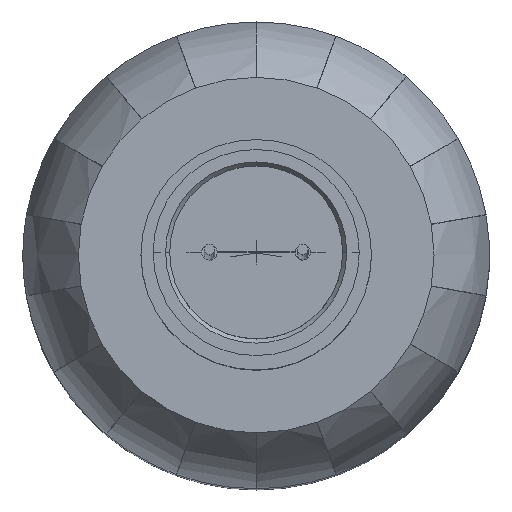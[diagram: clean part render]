
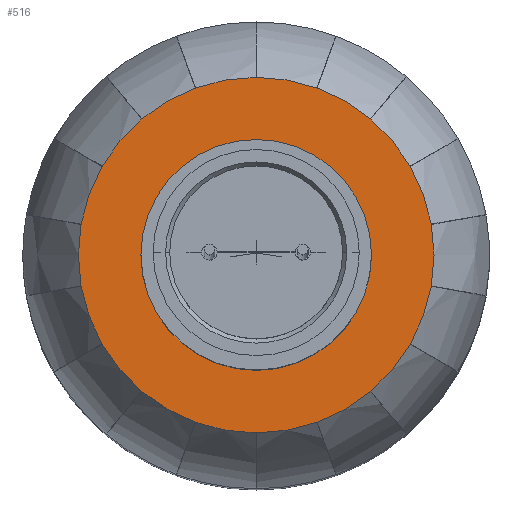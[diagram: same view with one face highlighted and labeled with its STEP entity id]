
A CAD part, top view. The second image highlights one B-rep face of the part: STEP entity #516.
In plain terms, the highlighted planar face has unit normal (0, 0, 1).
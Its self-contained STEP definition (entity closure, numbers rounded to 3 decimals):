
#516=ADVANCED_FACE('',(#763),#4167,.T.);
#763=FACE_OUTER_BOUND('',#1013,.T.);
#1013=EDGE_LOOP('',(#1387,#1388));
#1387=ORIENTED_EDGE('',*,*,#3300,.F.);
#1388=ORIENTED_EDGE('',*,*,#3184,.F.);
#3184=EDGE_CURVE('',#3745,#4148,#3533,.T.);
#3300=EDGE_CURVE('',#4148,#3745,#3575,.T.);
#3533=TRIMMED_CURVE($,#3646,(#9429),(#9430),.T.,.CARTESIAN.);
#3575=TRIMMED_CURVE($,#3688,(#9743),(#9744),.T.,.CARTESIAN.);
#3646=CIRCLE('',#4748,34.29);
#3688=CIRCLE('',#4790,34.29);
#3745=VERTEX_POINT('',#6679);
#4148=VERTEX_POINT('',#7082);
#4167=PLANE('',#4531);
#4531=AXIS2_PLACEMENT_3D('',#6275,#4903,$);
#4748=AXIS2_PLACEMENT_3D($,#9428,#5152,#5153);
#4790=AXIS2_PLACEMENT_3D($,#9742,#5236,#5237);
#4903=DIRECTION('',(0.,0.,1.));
#5152=DIRECTION('',(0.,0.,-1.));
#5153=DIRECTION('',(0.,1.,0.));
#5236=DIRECTION('',(0.,0.,-1.));
#5237=DIRECTION('',(0.,-1.,0.));
#6275=CARTESIAN_POINT('',(-34.976,34.975,188.655));
#6679=CARTESIAN_POINT('',(0.,34.29,188.655));
#7082=CARTESIAN_POINT('',(0.,-34.29,188.655));
#9428=CARTESIAN_POINT('',(0.,0.,188.655));
#9429=CARTESIAN_POINT('',(0.,34.29,188.655));
#9430=CARTESIAN_POINT('',(0.,-34.29,188.655));
#9742=CARTESIAN_POINT('',(0.,0.,188.655));
#9743=CARTESIAN_POINT('',(0.,-34.29,188.655));
#9744=CARTESIAN_POINT('',(0.,34.29,188.655));
